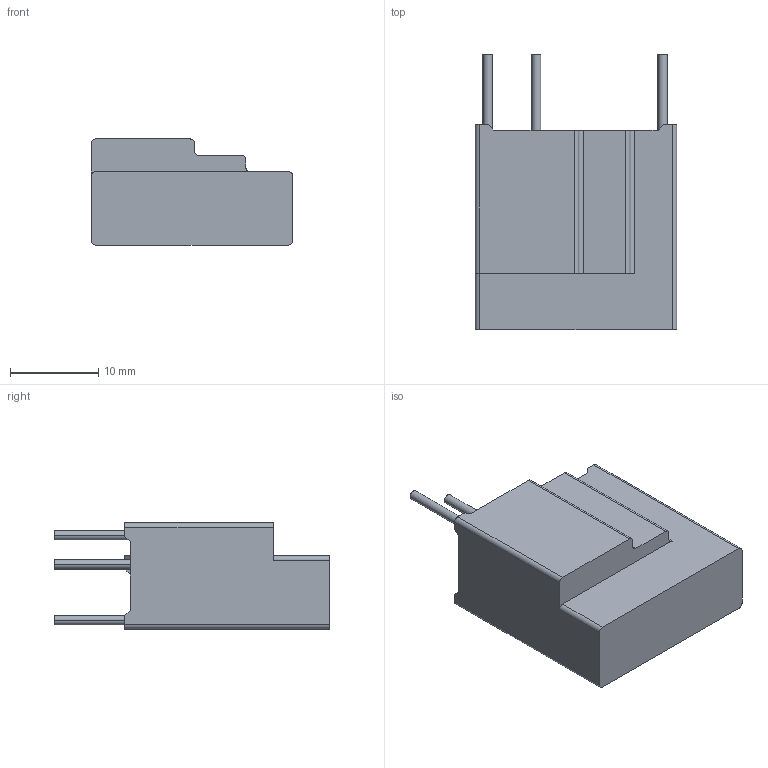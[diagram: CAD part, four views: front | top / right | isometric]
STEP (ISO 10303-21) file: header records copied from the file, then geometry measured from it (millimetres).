
FILE_DESCRIPTION((''),'2;1');
FILE_NAME('20S4501-20200616','2020-06-19T',('set'),(''),'PRO/ENGINEER BY PARAMETRIC TECHNOLOGY CORPORATION, 2012310','PRO/ENGINEER BY PARAMETRIC TECHNOLOGY CORPORATION, 2012310','');
FILE_SCHEMA(('CONFIG_CONTROL_DESIGN','SHAPE_APPEARANCE_LAYERS_GROUPS'));
Length unit declared in the file: millimetre
Products named in the file (1): 20S4501-20200616
Bounding box: 22.8 x 31.2 x 12 mm (x, y, z)
Volume: 1478.9 mm3; surface area: 3826.3 mm2
Topology: 1 solids, 2 shells, 104 faces, 291 edges, 194 vertices
Faces by surface type: plane 78, cylinder 26
Entity records: 3376 total; most frequent: CARTESIAN_POINT 589, ORIENTED_EDGE 582, DIRECTION 551, EDGE_CURVE 291, VECTOR 239, LINE 239, VERTEX_POINT 194, AXIS2_PLACEMENT_3D 156
